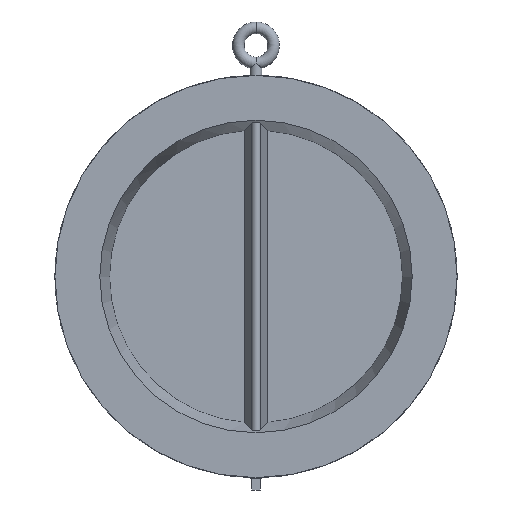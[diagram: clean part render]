
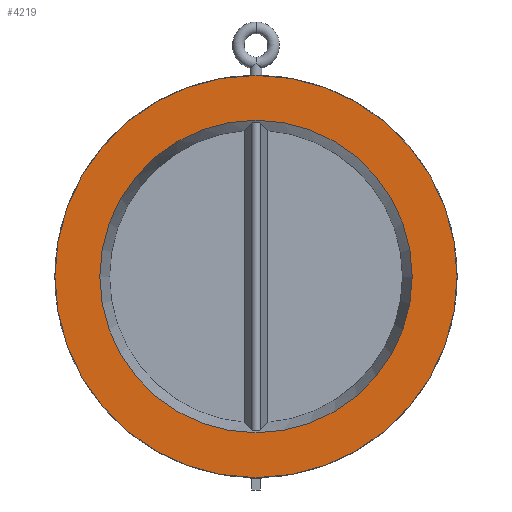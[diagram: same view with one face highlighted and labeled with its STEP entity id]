
A CAD part, front view. The second image highlights one B-rep face of the part: STEP entity #4219.
In plain terms, the highlighted planar face has unit normal (0, -1, 0).
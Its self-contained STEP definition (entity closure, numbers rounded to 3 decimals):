
#1236 = FACE_OUTER_BOUND ( 'NONE', #4240, .T. ) ;
#1241 = PLANE ( 'NONE',  #1277 ) ;
#1249 = FACE_BOUND ( 'NONE', #4209, .T. ) ;
#1261 = DIRECTION ( 'NONE',  ( 0., 0., -1. ) ) ;
#1262 = DIRECTION ( 'NONE',  ( 0., -1., 0. ) ) ;
#1263 = CARTESIAN_POINT ( 'NONE',  ( 0., 0., 0. ) ) ;
#1264 = AXIS2_PLACEMENT_3D ( 'NONE', #1263, #1262, #1261 ) ;
#1274 = DIRECTION ( 'NONE',  ( 0., 0., 1. ) ) ;
#1275 = DIRECTION ( 'NONE',  ( 0., 1., 0. ) ) ;
#1276 = CARTESIAN_POINT ( 'NONE',  ( -240., 0., 0. ) ) ;
#1277 = AXIS2_PLACEMENT_3D ( 'NONE', #1276, #1275, #1274 ) ;
#1278 = CIRCLE ( 'NONE', #1264, 240. ) ;
#2657 = CARTESIAN_POINT ( 'NONE',  ( 0., 0., 240. ) ) ;
#2675 = DIRECTION ( 'NONE',  ( 0., 0., -1. ) ) ;
#2676 = DIRECTION ( 'NONE',  ( 0., -1., 0. ) ) ;
#2677 = CARTESIAN_POINT ( 'NONE',  ( 0., 0., 0. ) ) ;
#2678 = AXIS2_PLACEMENT_3D ( 'NONE', #2677, #2676, #2675 ) ;
#2679 = CIRCLE ( 'NONE', #2678, 240. ) ;
#2706 = CARTESIAN_POINT ( 'NONE',  ( 0., 0., -240. ) ) ;
#3351 = EDGE_CURVE ( 'NONE', #3387, #3378, #6011, .T. ) ;
#3378 = VERTEX_POINT ( 'NONE', #5976 ) ;
#3384 = EDGE_CURVE ( 'NONE', #3378, #3387, #5907, .T. ) ;
#3387 = VERTEX_POINT ( 'NONE', #5958 ) ;
#4209 = EDGE_LOOP ( 'NONE', ( #4268, #4266 ) ) ;
#4210 = ORIENTED_EDGE ( 'NONE', *, *, #3351, .T. ) ;
#4219 = ADVANCED_FACE ( 'NONE', ( #1236, #1249 ), #1241, .F. ) ;
#4226 = EDGE_CURVE ( 'NONE', #5075, #5038, #1278, .T. ) ;
#4236 = ORIENTED_EDGE ( 'NONE', *, *, #3384, .T. ) ;
#4240 = EDGE_LOOP ( 'NONE', ( #4236, #4210 ) ) ;
#4266 = ORIENTED_EDGE ( 'NONE', *, *, #5042, .F. ) ;
#4268 = ORIENTED_EDGE ( 'NONE', *, *, #4226, .F. ) ;
#5038 = VERTEX_POINT ( 'NONE', #2657 ) ;
#5042 = EDGE_CURVE ( 'NONE', #5038, #5075, #2679, .T. ) ;
#5075 = VERTEX_POINT ( 'NONE', #2706 ) ;
#5888 = AXIS2_PLACEMENT_3D ( 'NONE', #5906, #5905, #5904 ) ;
#5904 = DIRECTION ( 'NONE',  ( 0., 0., -1. ) ) ;
#5905 = DIRECTION ( 'NONE',  ( 0., -1., 0. ) ) ;
#5906 = CARTESIAN_POINT ( 'NONE',  ( 0., 0., 0. ) ) ;
#5907 = CIRCLE ( 'NONE', #5888, 309. ) ;
#5958 = CARTESIAN_POINT ( 'NONE',  ( 0., 0., 309. ) ) ;
#5976 = CARTESIAN_POINT ( 'NONE',  ( 0., 0., -309. ) ) ;
#5997 = AXIS2_PLACEMENT_3D ( 'NONE', #6004, #6003, #6002 ) ;
#6002 = DIRECTION ( 'NONE',  ( 0., 0., -1. ) ) ;
#6003 = DIRECTION ( 'NONE',  ( 0., -1., 0. ) ) ;
#6004 = CARTESIAN_POINT ( 'NONE',  ( 0., 0., 0. ) ) ;
#6011 = CIRCLE ( 'NONE', #5997, 309. ) ;
